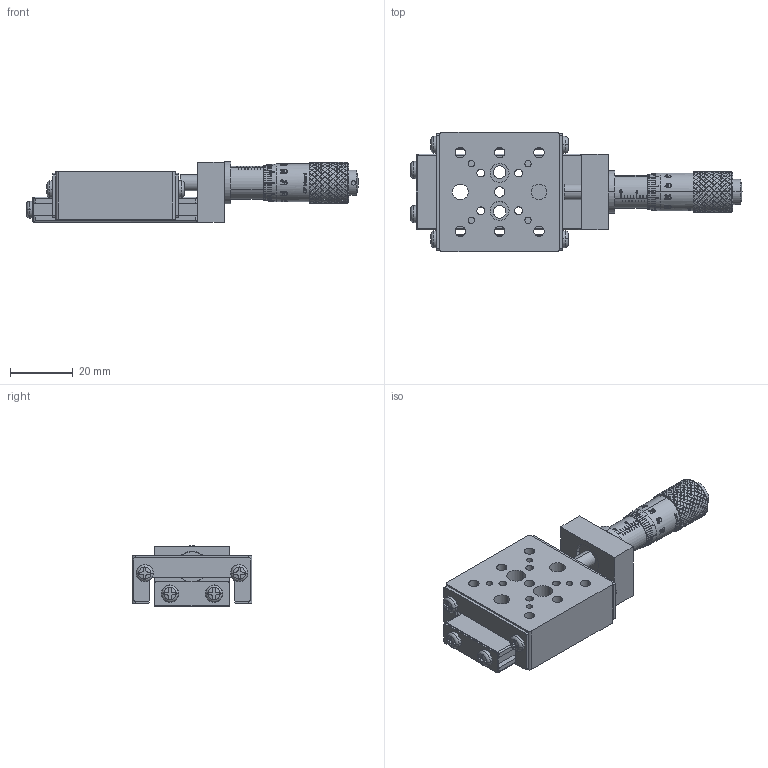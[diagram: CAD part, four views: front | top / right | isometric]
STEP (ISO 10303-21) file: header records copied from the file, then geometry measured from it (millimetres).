
FILE_DESCRIPTION (( 'STEP AP203' ), '1' );
FILE_NAME ('TC38X-05.STEP', '2017-02-18T02:25:55', ( '' ), ( '' ), 'SwSTEP 2.0', 'SolidWorks 2012', '' );
FILE_SCHEMA (( 'CONFIG_CONTROL_DESIGN' ));
Products named in the file (1): TC38X-05
Bounding box: 105.4 x 38 x 19.2 mm (x, y, z)
Surface area: 17947.3 mm2 (no closed solid volume)
Topology: 0 solids, 53 shells, 1758 faces, 6136 edges, 4335 vertices
Faces by surface type: bspline 893, cylinder 602, plane 205, cone 32, sphere 14, torus 12
Entity records: 156473 total; most frequent: CARTESIAN_POINT 116693, ORIENTED_EDGE 10911, EDGE_CURVE 6132, DIRECTION 4622, VERTEX_POINT 4335, B_SPLINE_CURVE_WITH_KNOTS 2261, EDGE_LOOP 1916, AXIS2_PLACEMENT_3D 1792
